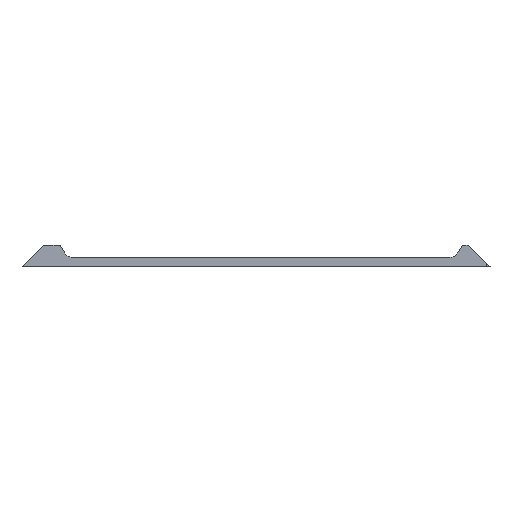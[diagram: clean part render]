
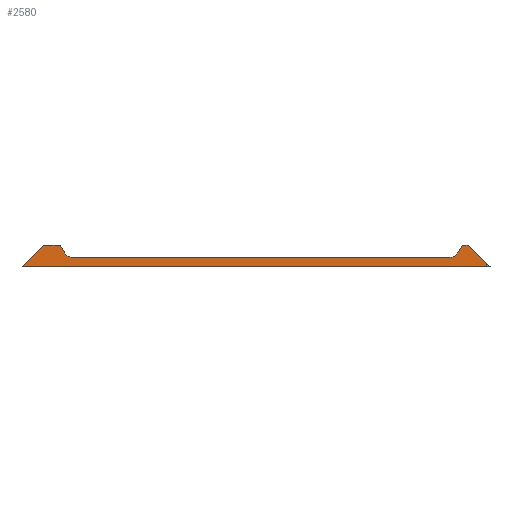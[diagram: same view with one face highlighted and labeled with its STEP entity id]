
A CAD part, left-side view. The second image highlights one B-rep face of the part: STEP entity #2580.
In plain terms, the highlighted planar face has unit normal (-1, 0, 0).
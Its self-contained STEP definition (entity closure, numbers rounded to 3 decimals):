
#143=PLANE('',#2725);
#255=FACE_OUTER_BOUND('',#396,.T.);
#396=EDGE_LOOP('',(#2031,#2032,#2033,#2034,#2035,#2036,#2037,#2038,#2039,
#2040,#2041));
#558=LINE('',#3537,#878);
#574=LINE('',#3569,#894);
#576=LINE('',#3573,#896);
#579=LINE('',#3579,#899);
#581=LINE('',#3582,#901);
#582=LINE('',#3584,#902);
#643=LINE('',#3713,#963);
#644=LINE('',#3717,#964);
#645=LINE('',#3718,#965);
#878=VECTOR('',#2921,10.);
#894=VECTOR('',#2939,10.);
#896=VECTOR('',#2943,10.);
#899=VECTOR('',#2948,10.);
#901=VECTOR('',#2952,10.);
#902=VECTOR('',#2955,10.);
#963=VECTOR('',#3076,10.);
#964=VECTOR('',#3079,10.);
#965=VECTOR('',#3080,10.);
#1139=CIRCLE('',#2726,3.);
#1140=CIRCLE('',#2727,3.);
#1200=VERTEX_POINT('',#3534);
#1201=VERTEX_POINT('',#3536);
#1215=VERTEX_POINT('',#3566);
#1216=VERTEX_POINT('',#3568);
#1217=VERTEX_POINT('',#3572);
#1218=VERTEX_POINT('',#3576);
#1219=VERTEX_POINT('',#3578);
#1256=VERTEX_POINT('',#3710);
#1257=VERTEX_POINT('',#3712);
#1258=VERTEX_POINT('',#3714);
#1259=VERTEX_POINT('',#3716);
#1469=EDGE_CURVE('',#1201,#1200,#558,.T.);
#1485=EDGE_CURVE('',#1215,#1216,#574,.T.);
#1487=EDGE_CURVE('',#1201,#1217,#576,.T.);
#1490=EDGE_CURVE('',#1218,#1219,#579,.T.);
#1492=EDGE_CURVE('',#1219,#1215,#581,.T.);
#1493=EDGE_CURVE('',#1200,#1216,#582,.T.);
#1555=EDGE_CURVE('',#1256,#1218,#1139,.T.);
#1556=EDGE_CURVE('',#1257,#1256,#643,.T.);
#1557=EDGE_CURVE('',#1257,#1258,#1140,.T.);
#1558=EDGE_CURVE('',#1258,#1259,#644,.T.);
#1559=EDGE_CURVE('',#1217,#1259,#645,.T.);
#2031=ORIENTED_EDGE('',*,*,#1555,.F.);
#2032=ORIENTED_EDGE('',*,*,#1556,.F.);
#2033=ORIENTED_EDGE('',*,*,#1557,.T.);
#2034=ORIENTED_EDGE('',*,*,#1558,.T.);
#2035=ORIENTED_EDGE('',*,*,#1559,.F.);
#2036=ORIENTED_EDGE('',*,*,#1487,.F.);
#2037=ORIENTED_EDGE('',*,*,#1469,.T.);
#2038=ORIENTED_EDGE('',*,*,#1493,.T.);
#2039=ORIENTED_EDGE('',*,*,#1485,.F.);
#2040=ORIENTED_EDGE('',*,*,#1492,.F.);
#2041=ORIENTED_EDGE('',*,*,#1490,.F.);
#2580=ADVANCED_FACE('',(#255),#143,.T.);
#2725=AXIS2_PLACEMENT_3D('',#3709,#3072,#3073);
#2726=AXIS2_PLACEMENT_3D('',#3711,#3074,#3075);
#2727=AXIS2_PLACEMENT_3D('',#3715,#3077,#3078);
#2921=DIRECTION('',(0.,-1.,0.));
#2939=DIRECTION('',(0.,-0.707,-0.707));
#2943=DIRECTION('',(0.,-0.707,0.707));
#2948=DIRECTION('',(0.,-0.5,0.866));
#2952=DIRECTION('',(0.,-1.,0.));
#2955=DIRECTION('',(0.,0.,1.));
#3072=DIRECTION('center_axis',(-1.,0.,0.));
#3073=DIRECTION('ref_axis',(0.,-1.,0.));
#3074=DIRECTION('center_axis',(-1.,0.,0.));
#3075=DIRECTION('ref_axis',(0.,-0.5,-0.866));
#3076=DIRECTION('',(0.,-1.,0.));
#3077=DIRECTION('center_axis',(1.,0.,0.));
#3078=DIRECTION('ref_axis',(0.,0.5,-0.866));
#3079=DIRECTION('',(0.,0.5,0.866));
#3080=DIRECTION('',(0.,-1.,0.));
#3534=CARTESIAN_POINT('',(-229.5,-58.772,0.));
#3536=CARTESIAN_POINT('',(-229.5,91.,0.));
#3537=CARTESIAN_POINT('',(-229.5,91.,0.));
#3566=CARTESIAN_POINT('',(-229.5,-52.884,7.));
#3568=CARTESIAN_POINT('',(-229.5,-58.772,1.112));
#3569=CARTESIAN_POINT('',(-229.5,-20.413,39.471));
#3572=CARTESIAN_POINT('',(-229.5,84.,7.));
#3573=CARTESIAN_POINT('',(-229.5,89.25,1.75));
#3576=CARTESIAN_POINT('',(-229.5,-49.536,4.509));
#3578=CARTESIAN_POINT('',(-229.5,-50.974,7.));
#3579=CARTESIAN_POINT('',(-229.5,-61.802,25.755));
#3582=CARTESIAN_POINT('',(-229.5,91.,7.));
#3584=CARTESIAN_POINT('',(-229.5,-58.772,0.));
#3709=CARTESIAN_POINT('Origin',(-229.5,91.,0.));
#3710=CARTESIAN_POINT('',(-229.5,-46.938,3.009));
#3711=CARTESIAN_POINT('Origin',(-229.5,-46.938,6.009));
#3712=CARTESIAN_POINT('',(-229.5,74.64,3.009));
#3713=CARTESIAN_POINT('',(-229.5,21.165,3.009));
#3714=CARTESIAN_POINT('',(-229.5,77.239,4.509));
#3715=CARTESIAN_POINT('Origin',(-229.5,74.64,6.009));
#3716=CARTESIAN_POINT('',(-229.5,78.677,7.));
#3717=CARTESIAN_POINT('',(-229.5,77.549,5.048));
#3718=CARTESIAN_POINT('',(-229.5,91.,7.));
